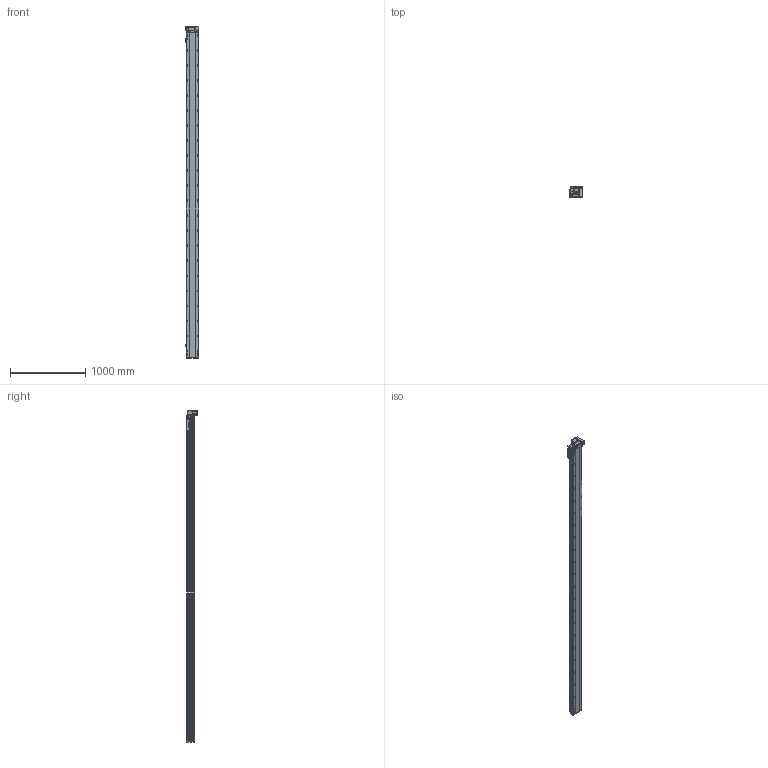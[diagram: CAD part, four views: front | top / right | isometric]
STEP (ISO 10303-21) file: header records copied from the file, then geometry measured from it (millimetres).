
FILE_DESCRIPTION (( 'STEP AP214' ), '1' );
FILE_NAME ('RTB17S-XX-4050-RM-M40-C4.STEP', '2025-12-11T08:42:59', ( '' ), ( '' ), 'SwSTEP 2.0', 'SolidWorks 2018', '' );
FILE_SCHEMA (( 'AUTOMOTIVE_DESIGN' ));
Length unit declared in the file: millimetre
Products named in the file (14): RTB17S-L-007奻裔^RTB17S-XX-XX-RM-M40-C4; RTB14-L-005P--轴承塑胶压盖^RTB17S-RM-皮带座装配-400W_RTB17S-XX-XX-RM-M40-C4; RTB14-L-018P^RTB17S-RM-々湍釱蚾饜-400W_RTB17S-XX-XX-RM-M40-C4; RTB17S-L-001耜醱啣^RTB17S-XX-XX-RM-M40-C4; RTB17S-L-014-T20--々湍釱^RTB17S-RM-々湍釱蚾饜-400W_RTB17S-XX-XX-RM-M40-C4; OMRON EE-SX672 传感器^RTB17S-XX-XX-RM-M40-C4; RTB14-L-017P^RTB17S-RM-々湍釱蚾饜-400W_RTB17S-XX-XX-RM-M40-C4; RTB17S-RM-々湍釱蚾饜-400W^RTB17S-XX-XX-RM-M40-C4; RTB17S-XX-4050-RM-M40-C4; RTB14-L-008-M20--萇儂啣^RTB17S-RM-々湍釱蚾饜-400W_RTB17S-XX-XX-RM-M40-C4; RTH13-BL-012覜茼え俋离^RTB17S-XX-XX-RM-M40-C4; RTB17S-L-004佪裝蹟譫蟀諉釱^RTB17S-XX-XX-RM-M40-C4; 400W侜督萇儂^RTB17S-XX-XX-RM-M40-C4; RTB17-R-011菁釱^RTB17S-XX-XX-RM-M40-C4
Assembly tree (16 placements, depth 3):
  RTB17S-XX-4050-RM-M40-C4
    RTB17-R-011菁釱^RTB17S-XX-XX-RM-M40-C4
    RTB17S-L-007奻裔^RTB17S-XX-XX-RM-M40-C4
    OMRON EE-SX672 传感器^RTB17S-XX-XX-RM-M40-C4  x3
    RTB17S-L-001耜醱啣^RTB17S-XX-XX-RM-M40-C4
    400W侜督萇儂^RTB17S-XX-XX-RM-M40-C4
    RTB17S-L-004佪裝蹟譫蟀諉釱^RTB17S-XX-XX-RM-M40-C4
    RTH13-BL-012覜茼え俋离^RTB17S-XX-XX-RM-M40-C4
    RTB17S-RM-々湍釱蚾饜-400W^RTB17S-XX-XX-RM-M40-C4
      RTB17S-L-014-T20--々湍釱^RTB17S-RM-々湍釱蚾饜-400W_RTB17S-XX-XX-RM-M40-C4
      RTB14-L-005P--轴承塑胶压盖^RTB17S-RM-皮带座装配-400W_RTB17S-XX-XX-RM-M40-C4
      RTB14-L-008-M20--萇儂啣^RTB17S-RM-々湍釱蚾饜-400W_RTB17S-XX-XX-RM-M40-C4
      RTB14-L-017P^RTB17S-RM-々湍釱蚾饜-400W_RTB17S-XX-XX-RM-M40-C4  x2
      RTB14-L-018P^RTB17S-RM-々湍釱蚾饜-400W_RTB17S-XX-XX-RM-M40-C4
Bounding box: 183.5 x 156.5 x 4422.5 mm (x, y, z)
Volume: 37241582.1 mm3; surface area: 4212202.2 mm2
Topology: 15 solids, 15 shells, 2461 faces, 6951 edges, 4545 vertices
Faces by surface type: plane 1100, cylinder 913, bspline 301, cone 139, torus 8
Entity records: 74921 total; most frequent: CARTESIAN_POINT 21556, ORIENTED_EDGE 10746, DIRECTION 9836, EDGE_CURVE 5373, VERTEX_POINT 3533, AXIS2_PLACEMENT_3D 3463, VECTOR 2910, LINE 2910
